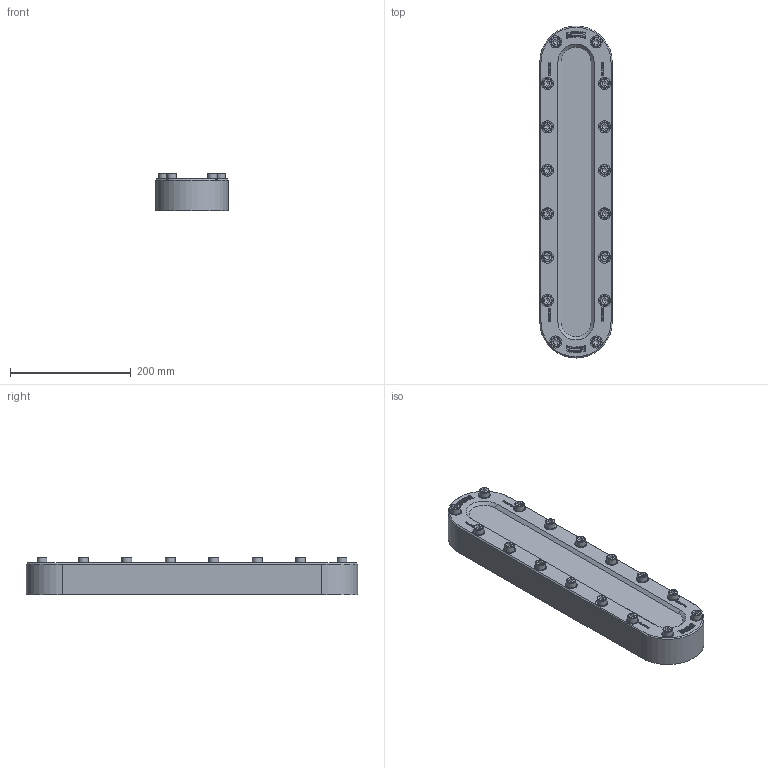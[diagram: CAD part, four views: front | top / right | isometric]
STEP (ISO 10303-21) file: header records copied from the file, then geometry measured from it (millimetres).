
FILE_DESCRIPTION(/* description */ (''),/* implementation_level */ '2;1');
FILE_NAME(/* name */ 'W:\Konstruktion_ACI\338\_STEP\338-550.stp',/* time_stamp */ '2022-03-11T14:33:54+01:00',/* author */ ('koslowksi'),/* organization */ (''),/* preprocessor_version */ 'ST-DEVELOPER v16.1',/* originating_system */ 'Autodesk Inventor 2016',/* authorisation */ '');
FILE_SCHEMA (('AUTOMOTIVE_DESIGN { 1 0 10303 214 3 1 1 }'));
Length unit declared in the file: millimetre
Products named in the file (1): 338-550
Bounding box: 120 x 550 x 62.9 mm (x, y, z)
Volume: 2734770.3 mm3; surface area: 224848.7 mm2
Topology: 1 solids, 1 shells, 1484 faces, 3997 edges, 2653 vertices
Faces by surface type: plane 974, bspline 438, cylinder 36, cone 20, torus 16
Full cylindrical faces by diameter (mm): 16 x16, 20 x16
Entity records: 49132 total; most frequent: CARTESIAN_POINT 13925, ORIENTED_EDGE 7834, DIRECTION 5133, EDGE_CURVE 3917, LINE 2851, VECTOR 2851, VERTEX_POINT 2637, EDGE_LOOP 1686
